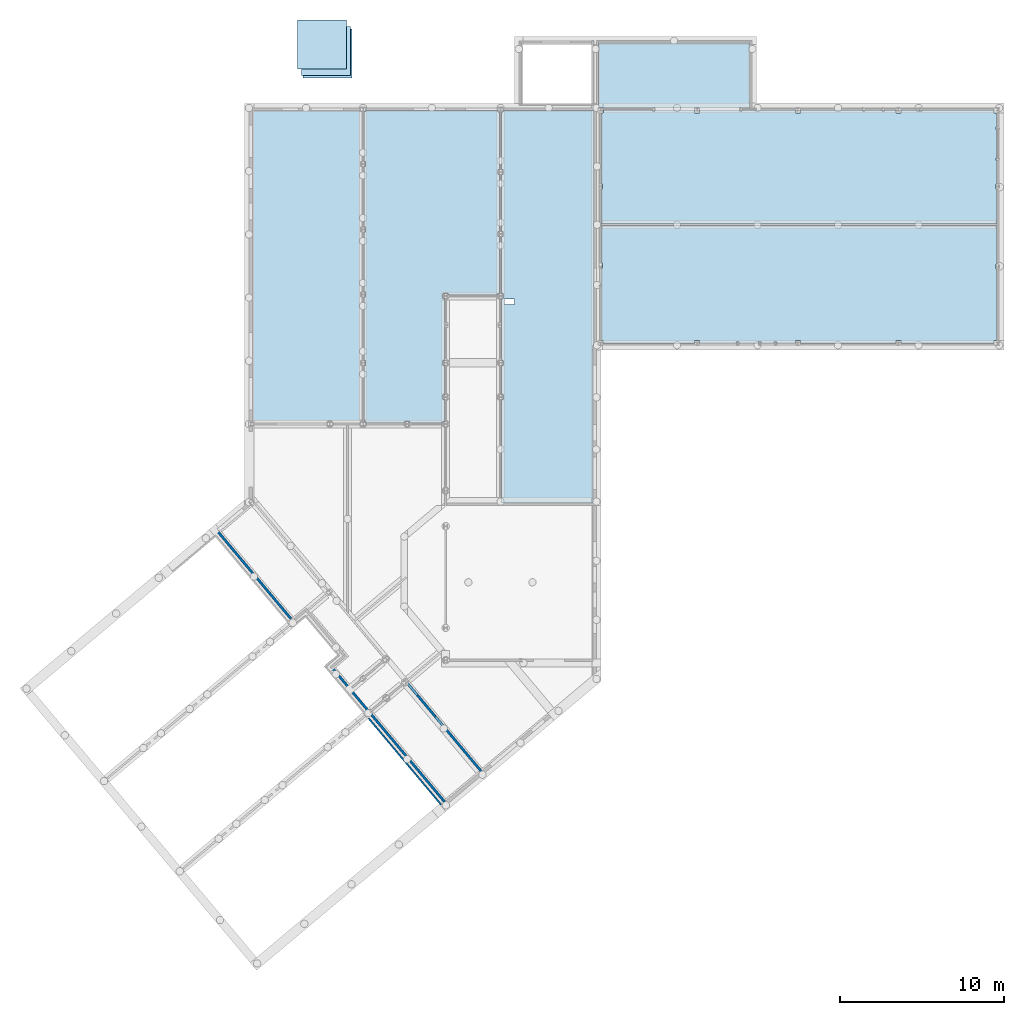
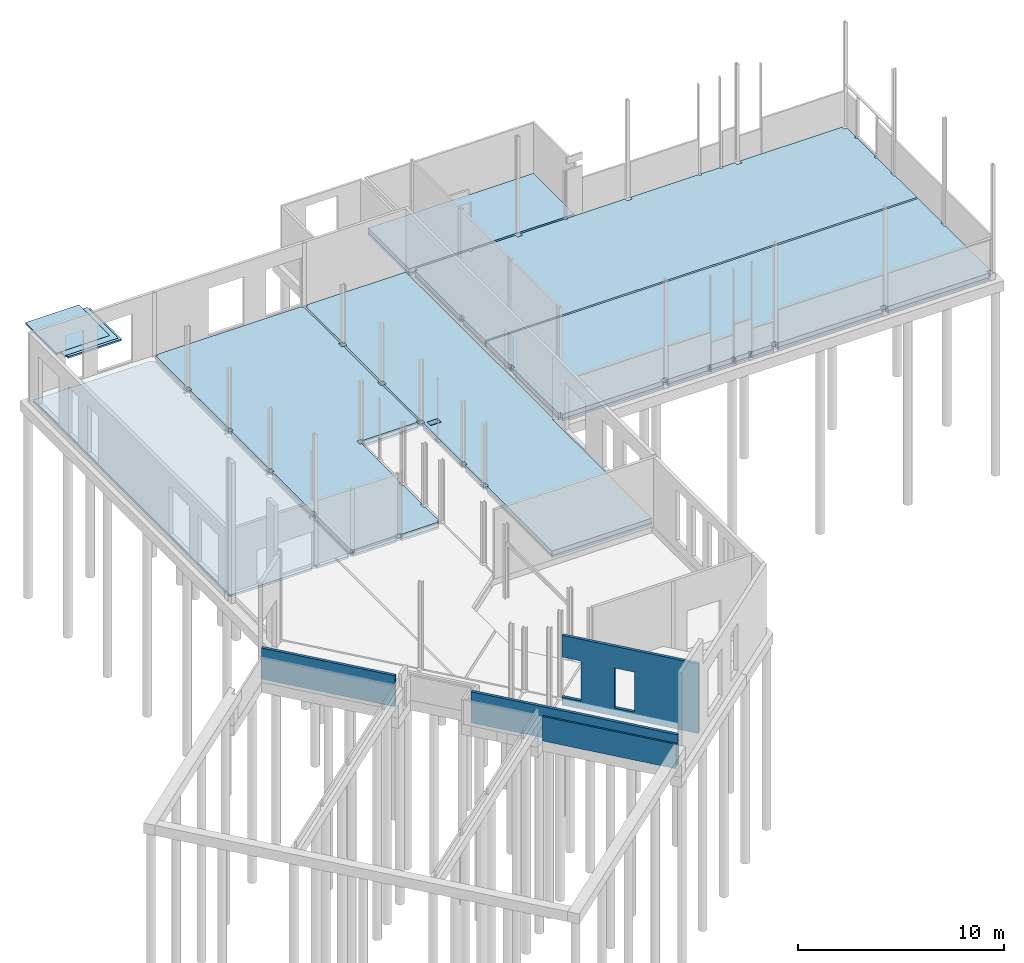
# One storey, part 15 of 18: 14 slabs, 4 walls, 4 openings.
"""IFC2X3 building model written with IfcOpenShell, lengths in millimetres."""

from ifc_helpers import new_model, entity, si_unit, converted_unit, derived_unit, direction, frame, frame_2d, origin, place, context, subcontext, project, spatial, polyline, rectangle, outline, extrude, material, layer, layer_set, layer_usage, type_object, element, save


model = new_model("IFC2X3")

# Units and contexts
model_context = context("Model", 3, precision=0.01, world=origin(), true_north=direction((6.12303176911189e-17, 1.0)))
body_context = subcontext(model_context, "Body", "Model", "MODEL_VIEW")
ifc_project = project(units=[si_unit("LENGTHUNIT", "METRE", prefix="MILLI"), si_unit("AREAUNIT", "SQUARE_METRE"), si_unit("VOLUMEUNIT", "CUBIC_METRE"), converted_unit("PLANEANGLEUNIT", "DEGREE", entity("IfcRatioMeasure", 0.0174532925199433), si_unit("PLANEANGLEUNIT", "RADIAN"), dimensions=[0, 0, 0, 0, 0, 0, 0]), si_unit("MASSUNIT", "GRAM", prefix="KILO"), derived_unit("MASSDENSITYUNIT", [(si_unit("MASSUNIT", "GRAM", prefix="KILO"), 1), (si_unit("LENGTHUNIT", "METRE"), -3)]), derived_unit("MOMENTOFINERTIAUNIT", [(si_unit("LENGTHUNIT", "METRE"), 4)]), si_unit("TIMEUNIT", "SECOND"), si_unit("FREQUENCYUNIT", "HERTZ"), si_unit("THERMODYNAMICTEMPERATUREUNIT", "DEGREE_CELSIUS"), derived_unit("THERMALTRANSMITTANCEUNIT", [(si_unit("MASSUNIT", "GRAM", prefix="KILO"), 1), (si_unit("THERMODYNAMICTEMPERATUREUNIT", "KELVIN"), -1), (si_unit("TIMEUNIT", "SECOND"), -3)]), derived_unit("VOLUMETRICFLOWRATEUNIT", [(si_unit("LENGTHUNIT", "METRE"), 3), (si_unit("TIMEUNIT", "SECOND"), -1)]), si_unit("ELECTRICCURRENTUNIT", "AMPERE"), si_unit("ELECTRICVOLTAGEUNIT", "VOLT"), si_unit("POWERUNIT", "WATT"), si_unit("FORCEUNIT", "NEWTON", prefix="KILO"), si_unit("ILLUMINANCEUNIT", "LUX"), si_unit("LUMINOUSFLUXUNIT", "LUMEN"), si_unit("LUMINOUSINTENSITYUNIT", "CANDELA"), derived_unit("USERDEFINED", [(si_unit("MASSUNIT", "GRAM", prefix="KILO"), -1), (si_unit("LENGTHUNIT", "METRE"), -2), (si_unit("TIMEUNIT", "SECOND"), 3), (si_unit("LUMINOUSFLUXUNIT", "LUMEN"), 1)]), derived_unit("LINEARVELOCITYUNIT", [(si_unit("LENGTHUNIT", "METRE"), 1), (si_unit("TIMEUNIT", "SECOND"), -1)]), si_unit("PRESSUREUNIT", "PASCAL"), derived_unit("USERDEFINED", [(si_unit("LENGTHUNIT", "METRE"), -2), (si_unit("MASSUNIT", "GRAM", prefix="KILO"), 1), (si_unit("TIMEUNIT", "SECOND"), -2)]), derived_unit("LINEARFORCEUNIT", [(si_unit("MASSUNIT", "GRAM", prefix="KILO"), 1), (si_unit("LENGTHUNIT", "METRE"), 1), (si_unit("TIMEUNIT", "SECOND"), -2), (si_unit("LENGTHUNIT", "METRE"), -1)]), derived_unit("PLANARFORCEUNIT", [(si_unit("MASSUNIT", "GRAM", prefix="KILO"), 1), (si_unit("LENGTHUNIT", "METRE"), 1), (si_unit("TIMEUNIT", "SECOND"), -2), (si_unit("LENGTHUNIT", "METRE"), -2)])], contexts=[model_context])

# Site, building, storey
site_placement = place(None, origin())
site = spatial("IfcSite", under=ifc_project, at=site_placement, Name="Default", CompositionType="ELEMENT")
building_placement = place(site_placement, origin())
building = spatial("IfcBuilding", under=site, at=building_placement, CompositionType="ELEMENT")
storey_placement = place(building_placement, frame((0.0, 0.0, -1085.0)))
storey = spatial("IfcBuildingStorey", under=building, at=storey_placement, Name="-00 fundatie", CompositionType="ELEMENT", Elevation=-1085.0)

# Slabs
ifc_material_1 = material(Name="n7_isolatie")
ifc_layer_1 = layer(ifc_material_1, 100.0)
ifc_layer_set_1 = layer_set([ifc_layer_1], Name="Floor:BERSnl_23_FL_isolatie 100_gen_ISR")
ifc_layer_usage_1 = layer_usage(ifc_layer_set_1, "AXIS3", "POSITIVE", 0.0)
slab_type_1 = type_object("IfcSlabType", Name="Floor:BERSnl_23_FL_isolatie 100_gen_ISR", PredefinedType="FLOOR", material=ifc_layer_set_1)
slab_1_placement = place(storey_placement, origin())
element("IfcSlab", 1, at=slab_1_placement, inside=storey, type_object=slab_type_1, material=ifc_layer_usage_1, Name="Floor:BERSnl_23_FL_isolatie 100_gen_ISR", ObjectType="Floor:BERSnl_23_FL_isolatie 100_gen_ISR", PredefinedType="FLOOR", context=body_context, shape_type="SweptSolid", body=[
    extrude(rectangle(XDim=3000.00000000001, YDim=3000.0, at=frame_2d((2.1600499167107e-12, 0.0), x_axis=(1.0, 0.0))), frame((18060.7662618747, 39369.7599867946, 995.0), z_axis=(0.0, 0.0, -1.0), x_axis=(0.0, 1.0, 0.0)), (0.0, 0.0, 1.0), 100.0),
])
ifc_layer_usage_2 = layer_usage(ifc_layer_set_1, "AXIS3", "POSITIVE", 0.0)
slab_type_2 = type_object("IfcSlabType", Name="Floor:BERSnl_23_FL_isolatie 100_gen_ISR", PredefinedType="FLOOR", material=ifc_layer_set_1)
slab_2_placement = place(storey_placement, origin())
element("IfcSlab", 2, at=slab_2_placement, inside=storey, type_object=slab_type_2, material=ifc_layer_usage_2, Name="Floor:BERSnl_23_FL_isolatie 100_gen_ISR", ObjectType="Floor:BERSnl_23_FL_isolatie 100_gen_ISR", PredefinedType="FLOOR", context=body_context, shape_type="SweptSolid", body=[
    extrude(rectangle(XDim=3000.00000000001, YDim=3000.0, at=frame_2d((2.1600499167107e-12, 0.0), x_axis=(1.0, 0.0))), frame((18313.6281316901, 38978.9734607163, 995.0), z_axis=(0.0, 0.0, -1.0), x_axis=(0.0, 1.0, 0.0)), (0.0, 0.0, 1.0), 100.0),
])
ifc_layer_usage_3 = layer_usage(ifc_layer_set_1, "AXIS3", "POSITIVE", 0.0)
slab_type_3 = type_object("IfcSlabType", Name="Floor:BERSnl_23_FL_isolatie 100_gen_ISR", PredefinedType="FLOOR", material=ifc_layer_set_1)
slab_3_placement = place(storey_placement, origin())
element("IfcSlab", 3, at=slab_3_placement, inside=storey, type_object=slab_type_3, material=ifc_layer_usage_3, Name="Floor:BERSnl_23_FL_isolatie 100_gen_ISR", ObjectType="Floor:BERSnl_23_FL_isolatie 100_gen_ISR", PredefinedType="FLOOR", context=body_context, shape_type="SweptSolid", body=[
    extrude(rectangle(XDim=3000.00000000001, YDim=3000.0, at=frame_2d((2.1600499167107e-12, 0.0), x_axis=(1.0, 0.0))), frame((18403.5574915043, 38826.4425859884, 995.0), z_axis=(0.0, 0.0, -1.0), x_axis=(0.0, 1.0, 0.0)), (0.0, 0.0, 1.0), 100.0),
])
ifc_material_2 = material(Name="00_Isolatie_generiek")
ifc_layer_2 = layer(ifc_material_2, 130.0)
ifc_layer_set_2 = layer_set([ifc_layer_2], Name="Floor:NLRS_23_FL_isolatie 130")
ifc_layer_usage_4 = layer_usage(ifc_layer_set_2, "AXIS3", "POSITIVE", 0.0)
slab_type_4 = type_object("IfcSlabType", Name="Floor:NLRS_23_FL_isolatie 130", PredefinedType="FLOOR", material=ifc_layer_set_2)
slab_4_placement = place(storey_placement, origin())
element("IfcSlab", 4, at=slab_4_placement, inside=storey, type_object=slab_type_4, material=ifc_layer_usage_4, Name="Floor:NLRS_23_FL_isolatie 130", ObjectType="Floor:NLRS_23_FL_isolatie 130", PredefinedType="FLOOR", context=body_context, shape_type="SweptSolid", body=[
    extrude(outline(polyline([(-7696.44925605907, -5514.44251383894), (11317.5507439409, -5514.44251383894), (11317.5507439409, 1095.55748616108), (11237.2029904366, 1095.55748616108), (11237.2029904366, 1195.55748616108), (8188.55074394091, 1195.55748616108), (8188.55074394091, 1095.5574861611), (7888.55074394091, 1095.5574861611), (7888.55074394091, 1195.55748616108), (4188.55074394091, 1195.55748616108), (4188.55074394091, 1095.55748616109), (3888.55074394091, 1095.55748616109), (3888.55074394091, 1195.55748616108), (218.550743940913, 1195.55748616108), (218.550743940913, 1095.55748616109), (-81.4492560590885, 1095.55748616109), (-81.4492560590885, 1195.55748616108), (-3956.90595886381, 1195.55748616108), (-3956.90595886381, 1095.55748616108), (-4256.90595886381, 1095.55748616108), (-4256.90595886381, 1195.55748616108), (-7696.44925605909, 1195.55748616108), (-7696.44925605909, 1095.55748616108), (-7771.44925605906, 1095.55748616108), (-7771.44925605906, -634.123660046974), (-7696.44925605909, -634.123660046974), (-7696.44925605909, -934.123660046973), (-7771.44925605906, -934.123660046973), (-7771.44925605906, -5468.44251383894), (-7696.44925605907, -5468.44251383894), (-7696.44925605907, -5514.44251383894)])), frame((19323.877490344, 24028.7458843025, 730.0), z_axis=(0.0, 0.0, -1.0), x_axis=(0.0, 1.0, 0.0)), (0.0, 0.0, 1.0), 130.0),
])
ifc_material_3 = material(Name="f2_beton prefab")
ifc_layer_3 = layer(ifc_material_3, 265.0)
ifc_layer_set_3 = layer_set([ifc_layer_3], Name="Floor:BERSnl_23_FL_kanaalplaatvloer 265")
ifc_layer_usage_5 = layer_usage(ifc_layer_set_3, "AXIS3", "POSITIVE", 0.0)
slab_type_5 = type_object("IfcSlabType", Name="Floor:BERSnl_23_FL_kanaalplaatvloer 265", PredefinedType="FLOOR", material=ifc_layer_set_3)
slab_5_placement = place(storey_placement, origin())
element("IfcSlab", 5, at=slab_5_placement, inside=storey, type_object=slab_type_5, material=ifc_layer_usage_5, Name="Floor:BERSnl_23_FL_kanaalplaatvloer 265", ObjectType="Floor:BERSnl_23_FL_kanaalplaatvloer 265", PredefinedType="FLOOR", context=body_context, shape_type="SweptSolid", body=[
    extrude(outline(polyline([(-8171.58161371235, -3677.14285714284), (-4732.03831651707, -3677.14285714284), (-4732.03831651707, -3577.14285714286), (-4432.03831651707, -3577.14285714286), (-4432.03831651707, -3677.14285714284), (-556.581613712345, -3677.14285714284), (-556.581613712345, -3577.14285714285), (-256.581613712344, -3577.14285714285), (-256.581613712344, -3677.14285714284), (3413.41838628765, -3677.14285714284), (3413.41838628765, -3577.14285714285), (3713.41838628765, -3577.14285714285), (3713.41838628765, -3677.14285714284), (7413.41838628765, -3677.14285714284), (7413.41838628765, -3577.14285714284), (7713.41838628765, -3577.14285714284), (7713.41838628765, -3677.14285714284), (10762.0706327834, -3677.14285714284), (10762.0706327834, -3577.14285714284), (10842.4183862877, -3577.14285714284), (10842.4183862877, 4522.85714285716), (10748.4183862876, 4522.85714285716), (10748.4183862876, 4622.85714285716), (7218.41838628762, 4622.85714285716), (7218.41838628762, 4522.85714285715), (6918.41838628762, 4522.85714285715), (6918.41838628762, 4622.85714285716), (3438.41838628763, 4622.85714285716), (3438.41838628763, 4522.85714285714), (3138.41838628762, 4522.85714285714), (3138.41838628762, 4622.85714285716), (-351.581613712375, 4622.85714285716), (-351.581613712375, 4522.85714285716), (-451.581613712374, 4522.85714285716), (-451.581613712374, 1468.85714285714), (-351.581613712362, 1468.85714285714), (-351.581613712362, 1168.85714285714), (-651.581613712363, 1168.85714285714), (-651.581613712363, 1268.85714285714), (-4431.58161371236, 1268.85714285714), (-4431.58161371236, 1168.85714285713), (-4731.58161371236, 1168.85714285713), (-4731.58161371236, 1268.85714285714), (-6520.30844218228, 1268.85714285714), (-6520.30844218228, 1168.85714285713), (-6820.30844218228, 1168.85714285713), (-6820.30844218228, 1268.85714285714), (-8171.58161371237, 1268.85714285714), (-8171.58161371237, 1168.85714285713), (-8271.58161371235, 1168.85714285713), (-8271.58161371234, -881.142857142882), (-8171.58161371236, -881.142857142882), (-8171.58161371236, -1181.14285714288), (-8246.58161371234, -1181.14285714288), (-8246.58161371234, -3577.14285714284), (-8171.58161371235, -3577.14285714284), (-8171.58161371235, -3677.14285714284)])), frame((24296.577833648, 24503.8782419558, 995.0), z_axis=(0.0, 0.0, -1.0), x_axis=(0.0, 1.0, 0.0)), (0.0, 0.0, 1.0), 265.0),
])
ifc_layer_usage_6 = layer_usage(ifc_layer_set_2, "AXIS3", "POSITIVE", 0.0)
slab_type_6 = type_object("IfcSlabType", Name="Floor:NLRS_23_FL_isolatie 130", PredefinedType="FLOOR", material=ifc_layer_set_2)
slab_6_placement = place(storey_placement, origin())
element("IfcSlab", 6, at=slab_6_placement, inside=storey, type_object=slab_type_6, material=ifc_layer_usage_6, Name="Floor:NLRS_23_FL_isolatie 130", ObjectType="Floor:NLRS_23_FL_isolatie 130", PredefinedType="FLOOR", context=body_context, shape_type="SweptSolid", body=[
    extrude(outline(polyline([(-8171.58161371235, -3677.14285714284), (-4732.03831651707, -3677.14285714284), (-4732.03831651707, -3577.14285714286), (-4432.03831651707, -3577.14285714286), (-4432.03831651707, -3677.14285714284), (-556.581613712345, -3677.14285714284), (-556.581613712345, -3577.14285714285), (-256.581613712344, -3577.14285714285), (-256.581613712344, -3677.14285714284), (3413.41838628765, -3677.14285714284), (3413.41838628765, -3577.14285714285), (3713.41838628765, -3577.14285714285), (3713.41838628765, -3677.14285714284), (7413.41838628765, -3677.14285714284), (7413.41838628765, -3577.14285714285), (7713.41838628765, -3577.14285714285), (7713.41838628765, -3677.14285714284), (10762.0706327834, -3677.14285714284), (10762.0706327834, -3577.14285714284), (10842.4183862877, -3577.14285714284), (10842.4183862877, 4522.85714285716), (10748.4183862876, 4522.85714285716), (10748.4183862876, 4622.85714285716), (7218.41838628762, 4622.85714285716), (7218.41838628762, 4522.85714285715), (6918.41838628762, 4522.85714285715), (6918.41838628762, 4622.85714285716), (3438.41838628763, 4622.85714285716), (3438.41838628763, 4522.85714285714), (3138.41838628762, 4522.85714285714), (3138.41838628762, 4622.85714285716), (-351.581613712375, 4622.85714285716), (-351.581613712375, 4522.85714285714), (-451.581613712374, 4522.85714285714), (-451.581613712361, 1468.85714285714), (-351.581613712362, 1468.85714285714), (-351.581613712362, 1168.85714285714), (-651.581613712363, 1168.85714285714), (-651.581613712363, 1268.85714285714), (-4431.58161371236, 1268.85714285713), (-4431.58161371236, 1168.85714285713), (-4731.58161371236, 1168.85714285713), (-4731.58161371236, 1268.85714285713), (-6520.30844218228, 1268.85714285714), (-6520.30844218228, 1168.85714285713), (-6820.30844218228, 1168.85714285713), (-6820.30844218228, 1268.85714285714), (-8171.58161371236, 1268.85714285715), (-8171.58161371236, 1168.85714285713), (-8271.58161371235, 1168.85714285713), (-8271.58161371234, -881.142857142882), (-8171.58161371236, -881.142857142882), (-8171.58161371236, -1181.14285714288), (-8246.58161371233, -1181.14285714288), (-8246.58161371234, -3577.14285714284), (-8171.58161371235, -3577.14285714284), (-8171.58161371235, -3677.14285714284)])), frame((24296.577833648, 24503.8782419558, 730.0), z_axis=(0.0, 0.0, -1.0), x_axis=(0.0, 1.0, 0.0)), (0.0, 0.0, 1.0), 130.0),
])
ifc_layer_usage_7 = layer_usage(ifc_layer_set_3, "AXIS3", "POSITIVE", 0.0)
slab_type_7 = type_object("IfcSlabType", Name="Floor:BERSnl_23_FL_kanaalplaatvloer 265", PredefinedType="FLOOR", material=ifc_layer_set_3)
slab_7_placement = place(storey_placement, origin())
element("IfcSlab", 7, at=slab_7_placement, inside=storey, type_object=slab_type_7, material=ifc_layer_usage_7, Name="Floor:BERSnl_23_FL_kanaalplaatvloer 265", ObjectType="Floor:BERSnl_23_FL_kanaalplaatvloer 265", PredefinedType="FLOOR", context=body_context, shape_type="SweptSolid", body=[
    extrude(rectangle(XDim=3980.00000000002, YDim=9259.99999999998, at=frame_2d((-2.1600499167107e-12, 4.09272615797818e-12), x_axis=(1.0, 0.0))), frame((39583.4270571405, 37486.2966282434, 995.0), z_axis=(0.0, 0.0, -1.0), x_axis=(0.0, 1.0, 0.0)), (0.0, 0.0, 1.0), 265.0),
])
ifc_layer_usage_8 = layer_usage(ifc_layer_set_2, "AXIS3", "POSITIVE", 0.0)
slab_type_8 = type_object("IfcSlabType", Name="Floor:NLRS_23_FL_isolatie 130", PredefinedType="FLOOR", material=ifc_layer_set_2)
slab_8_placement = place(storey_placement, origin())
element("IfcSlab", 8, at=slab_8_placement, inside=storey, type_object=slab_type_8, material=ifc_layer_usage_8, Name="Floor:NLRS_23_FL_isolatie 130", ObjectType="Floor:NLRS_23_FL_isolatie 130", PredefinedType="FLOOR", context=body_context, shape_type="SweptSolid", body=[
    extrude(rectangle(XDim=3980.00000000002, YDim=9259.99999999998, at=frame_2d((-2.1600499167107e-12, 4.09272615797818e-12), x_axis=(1.0, 0.0))), frame((39583.4270571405, 37486.2966282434, 730.0), z_axis=(0.0, 0.0, -1.0), x_axis=(0.0, 1.0, 0.0)), (0.0, 0.0, 1.0), 130.0),
])
ifc_layer_usage_9 = layer_usage(ifc_layer_set_3, "AXIS3", "POSITIVE", 0.0)
slab_type_9 = type_object("IfcSlabType", Name="Floor:BERSnl_23_FL_kanaalplaatvloer 265", PredefinedType="FLOOR", material=ifc_layer_set_3)
slab_9_placement = place(storey_placement, origin())
element("IfcSlab", 9, at=slab_9_placement, inside=storey, type_object=slab_type_9, material=ifc_layer_usage_9, Name="Floor:BERSnl_23_FL_kanaalplaatvloer 265", ObjectType="Floor:BERSnl_23_FL_kanaalplaatvloer 265", PredefinedType="FLOOR", context=body_context, shape_type="SweptSolid", body=[
    extrude(outline(polyline([(-5615.92307692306, -13676.3846153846), (-3475.92307692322, -13676.3846153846), (-3475.92307692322, -13576.3846153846), (-3175.92307692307, -13576.3846153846), (-3175.92307692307, -13676.3846153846), (1174.07692307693, -13676.3846153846), (1174.07692307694, -13550.3846153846), (1354.07692307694, -13550.3846153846), (1354.07692307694, -10546.3846153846), (1274.07692307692, -10546.3846153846), (1274.07692307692, -10396.3846153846), (1354.07692307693, -10396.3846153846), (1354.07692307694, -7956.38461538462), (1174.07692307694, -7956.38461538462), (1174.07692307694, -7656.38461538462), (1354.07692307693, -7656.38461538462), (1354.07692307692, -5216.38461538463), (1274.07692307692, -5216.38461538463), (1274.07692307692, -5066.38461538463), (1354.07692307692, -5066.38461538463), (1354.07692307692, -1806.38461538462), (1174.07692307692, -1806.38461538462), (1174.07692307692, -1506.38461538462), (1354.07692307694, -1506.38461538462), (1354.07692307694, 2293.61538461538), (1274.07692307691, 2293.61538461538), (1274.07692307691, 2443.61538461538), (1354.07692307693, 2443.61538461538), (1354.07692307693, 3493.61538461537), (1274.07692307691, 3493.61538461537), (1274.07692307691, 3643.61538461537), (1354.07692307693, 3643.61538461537), (1354.07692307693, 4343.61538461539), (1174.07692307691, 4343.61538461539), (1174.07692307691, 4643.61538461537), (1354.07692307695, 4643.61538461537), (1354.07692307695, 10343.6153846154), (1174.07692307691, 10343.6153846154), (1174.07692307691, 10523.6153846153), (310.076923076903, 10523.6153846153), (310.076923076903, 10443.6153846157), (160.076923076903, 10443.6153846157), (160.076923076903, 10523.6153846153), (-1599.9230769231, 10523.6153846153), (-1599.9230769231, 10443.6153846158), (-1749.9230769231, 10443.6153846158), (-1749.9230769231, 10523.6153846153), (-3175.9230769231, 10523.6153846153), (-3175.9230769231, 10443.6153846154), (-3475.92307692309, 10443.6153846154), (-3475.92307692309, 10523.6153846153), (-5615.92307692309, 10523.6153846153), (-5615.92307692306, -13676.3846153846)])), frame((48789.8116725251, 34022.2197051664, 995.0), z_axis=(0.0, 0.0, -1.0), x_axis=(0.0, 1.0, 0.0)), (0.0, 0.0, 1.0), 265.0),
])
ifc_layer_usage_10 = layer_usage(ifc_layer_set_2, "AXIS3", "POSITIVE", 0.0)
slab_type_10 = type_object("IfcSlabType", Name="Floor:NLRS_23_FL_isolatie 130", PredefinedType="FLOOR", material=ifc_layer_set_2)
slab_10_placement = place(storey_placement, origin())
element("IfcSlab", 10, at=slab_10_placement, inside=storey, type_object=slab_type_10, material=ifc_layer_usage_10, Name="Floor:NLRS_23_FL_isolatie 130", ObjectType="Floor:NLRS_23_FL_isolatie 130", PredefinedType="FLOOR", context=body_context, shape_type="SweptSolid", body=[
    extrude(outline(polyline([(-5709.7857142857, -14095.5832749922), (-3569.78571428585, -14095.5832749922), (-3569.78571428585, -13995.5832749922), (-3269.7857142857, -13995.5832749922), (-3269.7857142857, -14095.5832749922), (1080.21428571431, -14095.5832749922), (1080.21428571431, -13969.5832749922), (1260.21428571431, -13969.5832749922), (1260.21428571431, -10965.5832749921), (1180.21428571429, -10965.5832749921), (1180.21428571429, -10815.5832749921), (1260.2142857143, -10815.5832749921), (1260.21428571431, -8375.58327499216), (1080.21428571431, -8375.58327499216), (1080.21428571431, -8075.58327499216), (1260.2142857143, -8075.58327499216), (1260.2142857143, -5635.58327499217), (1180.21428571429, -5635.58327499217), (1180.21428571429, -5485.58327499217), (1260.2142857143, -5485.58327499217), (1260.21428571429, -2225.58327499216), (1080.21428571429, -2225.58327499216), (1080.21428571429, -1925.58327499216), (1260.21428571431, -1925.58327499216), (1260.21428571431, 1874.41672500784), (1180.21428571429, 1874.41672500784), (1180.21428571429, 2024.41672500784), (1260.2142857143, 2024.41672500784), (1260.2142857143, 3074.58257489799), (1180.21428571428, 3074.58257489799), (1180.21428571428, 3224.58257489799), (1260.2142857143, 3224.58257489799), (1260.2142857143, 3924.41672500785), (1080.21428571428, 3924.41672500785), (1080.21428571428, 4224.41672500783), (1260.21428571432, 4224.41672500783), (1260.21428571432, 5374.41672500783), (1180.21428571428, 5374.41672500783), (1180.21428571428, 5524.41672500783), (1260.21428571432, 5524.41672500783), (1260.21428571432, 9924.41672500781), (1080.21428571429, 9924.41672500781), (1080.21428571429, 10104.4167250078), (216.214285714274, 10104.4167250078), (216.214285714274, 10024.4167250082), (66.2142857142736, 10024.4167250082), (66.2142857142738, 10104.4167250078), (-1693.78571428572, 10104.4167250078), (-1693.78571428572, 10024.4167250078), (-1843.78571428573, 10024.4167250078), (-1843.78571428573, 10104.4167250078), (-3269.78571428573, 10104.4167250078), (-3269.78571428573, 10024.4167250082), (-3569.78571428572, 10024.4167250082), (-3569.78571428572, 10104.4167250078), (-5709.78571428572, 10104.4167250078), (-5709.7857142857, -14095.5832749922)])), frame((49209.0103321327, 34116.082342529, 730.0), z_axis=(0.0, 0.0, -1.0), x_axis=(0.0, 1.0, 0.0)), (0.0, 0.0, 1.0), 130.0),
])
ifc_layer_usage_11 = layer_usage(ifc_layer_set_3, "AXIS3", "POSITIVE", 0.0)
slab_type_11 = type_object("IfcSlabType", Name="Floor:BERSnl_23_FL_kanaalplaatvloer 265", PredefinedType="FLOOR", material=ifc_layer_set_3)
slab_11_placement = place(storey_placement, origin())
element("IfcSlab", 11, at=slab_11_placement, inside=storey, type_object=slab_type_11, material=ifc_layer_usage_11, Name="Floor:BERSnl_23_FL_kanaalplaatvloer 265", ObjectType="Floor:BERSnl_23_FL_kanaalplaatvloer 265", PredefinedType="FLOOR", context=body_context, shape_type="SweptSolid", body=[
    extrude(outline(polyline([(-1178.50718953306, -11314.0469102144), (3231.49281046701, -11314.0469102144), (3231.49281046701, -11214.0469102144), (3531.49281046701, -11214.0469102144), (3531.49281046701, -11314.0469102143), (5831.6366011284, -11314.0469102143), (5831.63660112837, 12885.9530897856), (3471.49281046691, 12885.9530897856), (3471.49281046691, 12805.953089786), (3171.49281046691, 12805.953089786), (3171.49281046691, 12885.9530897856), (-1178.50718953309, 12885.9530897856), (-1178.50718953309, 12705.9530897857), (-1358.5071895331, 12705.9530897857), (-1358.50718953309, 7005.95308978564), (-1178.50718953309, 7005.95308978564), (-1178.50718953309, 6705.95308978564), (-1358.50718953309, 6705.95308978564), (-1358.50718953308, 855.953089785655), (-1178.50718953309, 855.953089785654), (-1178.50718953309, 555.953089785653), (-1358.50718953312, 555.953089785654), (-1358.50718953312, -594.046910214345), (-1278.50718953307, -594.046910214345), (-1278.50718953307, -741.768073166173), (-1358.50718953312, -741.768073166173), (-1358.50718953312, -1533.85664511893), (-1278.50718953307, -1533.85664511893), (-1278.50718953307, -1681.57780807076), (-1358.50718953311, -1681.57780807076), (-1358.50718953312, -2894.04691021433), (-1278.50718953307, -2894.04691021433), (-1278.50718953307, -3044.04691021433), (-1358.50718953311, -3044.04691021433), (-1358.50718953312, -5294.04691021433), (-1178.50718953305, -5294.04691021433), (-1178.50718953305, -5594.04691021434), (-1358.50718953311, -5594.04691021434), (-1358.5071895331, -11188.0469102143), (-1178.50718953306, -11188.0469102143), (-1178.50718953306, -11314.0469102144)])), frame((46427.4739673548, 22474.8038177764, 995.0), z_axis=(0.0, 0.0, -1.0), x_axis=(0.0, 1.0, 0.0)), (0.0, 0.0, 1.0), 265.0),
])
ifc_layer_usage_12 = layer_usage(ifc_layer_set_2, "AXIS3", "POSITIVE", 0.0)
slab_type_12 = type_object("IfcSlabType", Name="Floor:NLRS_23_FL_isolatie 130", PredefinedType="FLOOR", material=ifc_layer_set_2)
slab_12_placement = place(storey_placement, origin())
element("IfcSlab", 12, at=slab_12_placement, inside=storey, type_object=slab_type_12, material=ifc_layer_usage_12, Name="Floor:NLRS_23_FL_isolatie 130", ObjectType="Floor:NLRS_23_FL_isolatie 130", PredefinedType="FLOOR", context=body_context, shape_type="SweptSolid", body=[
    extrude(outline(polyline([(-1178.50718953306, -11313.9139418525), (3231.49281046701, -11313.9139418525), (3231.49281046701, -11213.9139418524), (3531.49281046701, -11213.9139418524), (3531.49281046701, -11313.9139418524), (5831.6366011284, -11313.9139418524), (5831.63660112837, 12886.0860581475), (3471.49281046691, 12886.0860581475), (3471.49281046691, 12806.086058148), (3171.49281046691, 12806.086058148), (3171.49281046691, 12886.0860581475), (-1178.50718953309, 12886.0860581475), (-1178.50718953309, 12706.0860581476), (-1358.5071895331, 12706.0860581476), (-1358.50718953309, 7006.08605814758), (-1178.50718953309, 7006.08605814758), (-1178.50718953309, 6706.08605814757), (-1358.50718953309, 6706.08605814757), (-1358.50718953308, 856.086058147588), (-1178.50718953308, 856.086058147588), (-1178.50718953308, 556.086058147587), (-1358.50718953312, 556.086058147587), (-1358.50718953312, -593.913941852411), (-1278.50718953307, -593.913941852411), (-1278.50718953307, -741.63510480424), (-1358.50718953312, -741.63510480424), (-1358.50718953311, -1533.91394185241), (-1278.50718953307, -1533.91394185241), (-1278.50718953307, -1683.91394185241), (-1358.50718953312, -1683.91394185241), (-1358.50718953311, -2893.9139418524), (-1278.50718953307, -2893.9139418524), (-1278.50718953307, -3043.9139418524), (-1358.50718953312, -3043.9139418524), (-1358.50718953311, -5293.9139418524), (-1178.50718953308, -5293.9139418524), (-1178.50718953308, -5593.91394185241), (-1358.50718953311, -5593.91394185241), (-1358.5071895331, -11187.9139418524), (-1178.50718953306, -11187.9139418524), (-1178.50718953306, -11313.9139418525)])), frame((46427.3409989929, 22474.8038177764, 730.0), z_axis=(0.0, 0.0, -1.0), x_axis=(0.0, 1.0, 0.0)), (0.0, 0.0, 1.0), 130.0),
])

# Slab, opening
ifc_layer_usage_13 = layer_usage(ifc_layer_set_3, "AXIS3", "POSITIVE", 0.0)
slab_type_13 = type_object("IfcSlabType", Name="Floor:BERSnl_23_FL_kanaalplaatvloer 265", PredefinedType="FLOOR", material=ifc_layer_set_3)
slab_13_placement = place(storey_placement, frame((29019.4349765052, 11342.2966282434, 730.0)))
slab_13 = element("IfcSlab", 13, at=slab_13_placement, inside=storey, type_object=slab_type_13, material=ifc_layer_usage_13, Name="Floor:BERSnl_23_FL_kanaalplaatvloer 265", ObjectType="Floor:BERSnl_23_FL_kanaalplaatvloer 265", PredefinedType="FLOOR", context=body_context, shape_type="SweptSolid", body=[
    extrude(outline(polyline([(-2831.99604031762, 12002.0), (-2831.99604031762, -2348.0), (-2767.99604031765, -2348.0), (-2767.99604031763, -12002.0), (2831.99604031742, -12002.0), (2831.99604031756, -5660.7268284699), (2731.99604031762, -5660.7268284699), (2731.99604031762, -5360.72682846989), (2831.99604031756, -5360.72682846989), (2831.99604031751, -3572.0), (2731.99604031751, -3572.0), (2731.99604031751, -3272.0), (2831.99604031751, -3272.0), (2831.99604031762, 508.0), (2731.99604031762, 508.0), (2731.99604031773, 808.0), (2831.99604031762, 808.0), (2831.99604031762, 4298.0), (2731.99604031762, 4298.0), (2731.99604031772, 4598.0), (2831.99604031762, 4598.0), (2831.99604031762, 8078.0), (2731.99604031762, 8078.0), (2731.99604031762, 8378.0), (2831.99604031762, 8378.0), (2831.99604031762, 11908.0), (2731.99604031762, 11908.0), (2731.99604031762, 12002.0), (-2831.99604031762, 12002.0)])), frame((2831.99604031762, 12002.0, 265.0), z_axis=(0.0, 0.0, -1.0), x_axis=(-1.0, 0.0, 0.0)), (0.0, 0.0, 1.0), 265.0),
])
opening_1_placement = place(storey_placement, frame((29019.4349765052, 11342.2966282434, 730.0)))
element("IfcOpeningElement", 14, at=opening_1_placement, cuts=slab_13, ObjectType="Opening", context=body_context, shape_type="SweptSolid", body=[
    extrude(rectangle(XDim=355.173876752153, YDim=599.999999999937, at=frame_2d((2331.9960403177, 312.413061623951), x_axis=(0.0, 1.0))), frame((2831.99604031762, 12002.0, 265.0), z_axis=(0.0, 0.0, -1.0), x_axis=(-1.0, 0.0, 0.0)), (0.0, 0.0, 1.0), 265.0),
])

ifc_layer_usage_14 = layer_usage(ifc_layer_set_2, "AXIS3", "POSITIVE", 0.0)
slab_type_14 = type_object("IfcSlabType", Name="Floor:NLRS_23_FL_isolatie 130", PredefinedType="FLOOR", material=ifc_layer_set_2)
slab_14_placement = place(storey_placement, frame((29019.4349765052, 11342.2966282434, 600.0)))
slab_14 = element("IfcSlab", 15, at=slab_14_placement, inside=storey, type_object=slab_type_14, material=ifc_layer_usage_14, Name="Floor:NLRS_23_FL_isolatie 130", ObjectType="Floor:NLRS_23_FL_isolatie 130", PredefinedType="FLOOR", context=body_context, shape_type="SweptSolid", body=[
    extrude(outline(polyline([(-2831.99604031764, 12002.0), (-2831.99604031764, -2348.0), (-2767.99604031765, -2348.0), (-2767.99604031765, -12002.0), (2831.99604031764, -12002.0), (2831.9960403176, -5660.7268284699), (2731.9960403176, -5660.7268284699), (2731.9960403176, -5360.72682846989), (2831.9960403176, -5360.72682846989), (2831.9960403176, -3572.0), (2731.99604031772, -3572.0), (2731.99604031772, -3272.0), (2831.9960403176, -3272.0), (2831.9960403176, 508.0), (2731.9960403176, 508.0), (2731.9960403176, 808.0), (2831.9960403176, 808.0), (2831.9960403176, 4298.0), (2731.99604031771, 4298.0), (2731.99604031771, 4598.0), (2831.9960403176, 4598.0), (2831.9960403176, 8078.0), (2731.9960403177, 8078.0), (2731.9960403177, 8378.0), (2831.9960403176, 8378.0), (2831.9960403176, 11908.0), (2731.9960403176, 11908.0), (2731.9960403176, 12002.0), (-2831.99604031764, 12002.0)])), frame((2831.99604031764, 12002.0, 130.0), z_axis=(0.0, 0.0, -1.0), x_axis=(-1.0, 0.0, 0.0)), (0.0, 0.0, 1.0), 130.0),
])
opening_2_placement = place(storey_placement, frame((29019.4349765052, 11342.2966282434, 600.0)))
element("IfcOpeningElement", 16, at=opening_2_placement, cuts=slab_14, ObjectType="Opening", context=body_context, shape_type="SweptSolid", body=[
    extrude(rectangle(XDim=355.173876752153, YDim=599.999999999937, at=frame_2d((2331.99604031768, 312.413061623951), x_axis=(0.0, 1.0))), frame((2831.99604031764, 12002.0, 130.0), z_axis=(0.0, 0.0, -1.0), x_axis=(-1.0, 0.0, 0.0)), (0.0, 0.0, 1.0), 130.0),
])

# Walls
ifc_material_4 = material(Name="f1_kalkzandsteen")
ifc_layer_4 = layer(ifc_material_4, 150.0)
ifc_layer_set_4 = layer_set([ifc_layer_4], Name="Basic Wall:BERSnl_22_WA_kalkzandsteen150")
ifc_layer_usage_15 = layer_usage(ifc_layer_set_4, "AXIS2", "NEGATIVE", 75.0)
wall_type_1 = type_object("IfcWallType", Name="Basic Wall:BERSnl_22_WA_kalkzandsteen150", PredefinedType="STANDARD", material=ifc_layer_set_4)
wall_1_placement = place(storey_placement, frame((25551.8643569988, -6905.05392266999, 600.0), z_axis=(0.0, 0.0, 1.0), x_axis=(-0.642787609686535, 0.766044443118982, 0.0)))
element("IfcWallStandardCase", 17, at=wall_1_placement, inside=storey, type_object=wall_type_1, material=ifc_layer_usage_15, Name="Basic Wall:BERSnl_22_WA_kalkzandsteen150", ObjectType="Basic Wall:BERSnl_22_WA_kalkzandsteen150", context=body_context, shape_type="SweptSolid", body=[
    extrude(rectangle(XDim=10674.619469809, YDim=150.000000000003, at=frame_2d((5337.30973490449, 5.40012479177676e-13), x_axis=(-1.0, 0.0))), origin(), (0.0, 0.0, 1.0), 1845.0),
])
ifc_layer_usage_16 = layer_usage(ifc_layer_set_4, "AXIS2", "NEGATIVE", 75.0)
wall_2_placement = place(storey_placement, frame((16167.1652555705, 4279.19494687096, 600.0), z_axis=(0.0, 0.0, 1.0), x_axis=(-0.642787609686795, 0.766044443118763, 0.0)))
element("IfcWallStandardCase", 18, at=wall_2_placement, inside=storey, type_object=wall_type_1, material=ifc_layer_usage_16, Name="Basic Wall:BERSnl_22_WA_kalkzandsteen150", ObjectType="Basic Wall:BERSnl_22_WA_kalkzandsteen150", context=body_context, shape_type="SweptSolid", body=[
    extrude(rectangle(XDim=6899.99999996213, YDim=150.000000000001, at=frame_2d((3449.99999998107, 9.9475983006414e-14), x_axis=(-1.0, 0.0))), origin(), (0.0, 0.0, 1.0), 1845.0),
])

# Wall, openings
ifc_layer_usage_17 = layer_usage(ifc_layer_set_4, "AXIS2", "NEGATIVE", 75.0)
wall_3_placement = place(storey_placement, frame((27784.5924056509, -5031.57264052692, 600.0), z_axis=(0.0, 0.0, 1.0), x_axis=(-0.642787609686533, 0.766044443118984, 0.0)))
wall_3 = element("IfcWallStandardCase", 19, at=wall_3_placement, inside=storey, type_object=wall_type_1, material=ifc_layer_usage_17, Name="Basic Wall:BERSnl_22_WA_kalkzandsteen150", ObjectType="Basic Wall:BERSnl_22_WA_kalkzandsteen150", context=body_context, shape_type="SweptSolid", body=[
    extrude(rectangle(XDim=7045.01706476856, YDim=150.000000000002, at=frame_2d((3522.50853238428, -5.47117906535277e-13), x_axis=(-1.0, 0.0))), origin(), (0.0, 0.0, 1.0), 4135.00000000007),
])
opening_3_placement = place(wall_3_placement, origin())
element("IfcOpeningElement", 20, at=opening_3_placement, cuts=wall_3, Name="Basic Wall:BERSnl_22_WA_kalkzandsteen150", ObjectType="Opening", context=body_context, shape_type="SweptSolid", body=[
    extrude(rectangle(XDim=2367.00000000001, YDim=1034.0, at=frame_2d((0.0, 2.1032064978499e-12), x_axis=(1.0, 0.0))), frame((3820.0, -75.0, 1668.50000000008), z_axis=(0.0, 1.0, 0.0), x_axis=(0.0, 0.0, -1.0)), (0.0, 0.0, 1.0), 150.000000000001),
])
opening_4_placement = place(wall_3_placement, origin())
element("IfcOpeningElement", 21, at=opening_4_placement, cuts=wall_3, Name="Basic Wall:BERSnl_22_WA_kalkzandsteen150", ObjectType="Opening", context=body_context, shape_type="SweptSolid", body=[
    extrude(rectangle(XDim=2367.00000000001, YDim=995.017064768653, at=frame_2d((0.0, -2.21689333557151e-12), x_axis=(1.0, 0.0))), frame((6547.50853238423, -75.0, 1668.50000000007), z_axis=(0.0, 1.0, 0.0), x_axis=(0.0, 0.0, -1.0)), (0.0, 0.0, 1.0), 149.999999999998),
])

# Wall
ifc_material_5 = material(Name="g2_metselwerk bruin")
ifc_layer_5 = layer(ifc_material_5, 100.0)
ifc_layer_set_5 = layer_set([ifc_layer_5], Name="Basic Wall:BERSnl_21_WA_metselwerk 100_gen_ISR")
ifc_layer_usage_18 = layer_usage(ifc_layer_set_5, "AXIS2", "NEGATIVE", 50.0)
wall_type_2 = type_object("IfcWallType", Name="Basic Wall:BERSnl_21_WA_metselwerk 100_gen_ISR", PredefinedType="STANDARD", material=ifc_layer_set_5)
wall_4_placement = place(storey_placement, frame((25340.9106321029, -7082.06511542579, 600.0), z_axis=(0.0, 0.0, 1.0), x_axis=(-0.642787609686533, 0.766044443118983, 0.0)))
element("IfcWallStandardCase", 22, at=wall_4_placement, inside=storey, type_object=wall_type_2, material=ifc_layer_usage_18, Name="Basic Wall:BERSnl_21_WA_metselwerk 100_gen_ISR", ObjectType="Basic Wall:BERSnl_21_WA_metselwerk 100_gen_ISR", context=body_context, shape_type="SweptSolid", body=[
    extrude(rectangle(XDim=6899.99999999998, YDim=100.000000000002, at=frame_2d((3449.99999999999, 1.31450406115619e-13), x_axis=(-1.0, 0.0))), origin(), (0.0, 0.0, 1.0), 1450.0),
])

save(model, "model.ifc")
